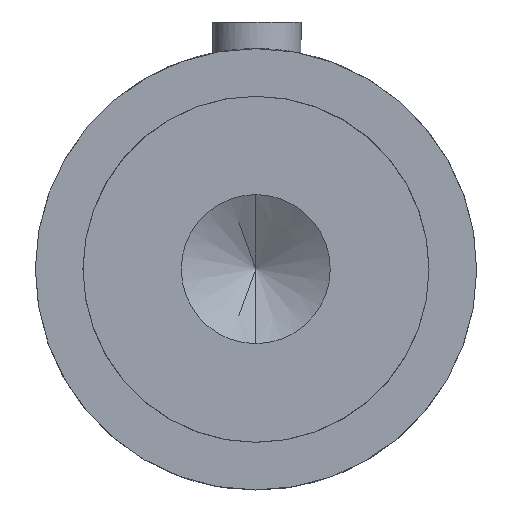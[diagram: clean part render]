
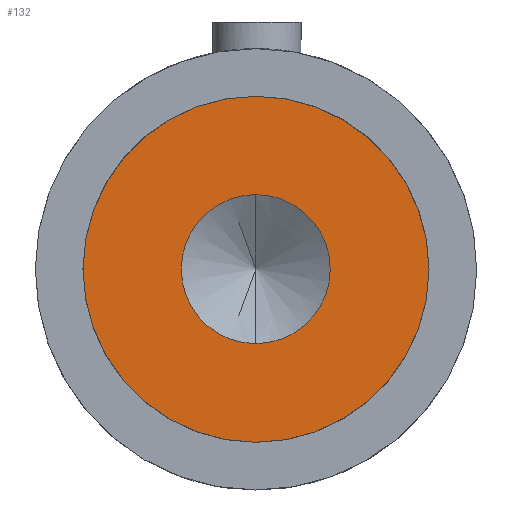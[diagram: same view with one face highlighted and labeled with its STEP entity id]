
A CAD part, front view. The second image highlights one B-rep face of the part: STEP entity #132.
In plain terms, the highlighted planar face has unit normal (0, -1, 0).
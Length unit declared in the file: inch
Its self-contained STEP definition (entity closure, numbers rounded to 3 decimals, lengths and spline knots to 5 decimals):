
#131 = EDGE_CURVE ( 'NONE', #167, #166, #914, .T. ) ;
#132 = ADVANCED_FACE ( 'NONE', ( #916, #930 ), #943, .F. ) ;
#138 = EDGE_LOOP ( 'NONE', ( #139, #260 ) ) ;
#139 = ORIENTED_EDGE ( 'NONE', *, *, #131, .F. ) ;
#155 = ORIENTED_EDGE ( 'NONE', *, *, #156, .F. ) ;
#156 = EDGE_CURVE ( 'NONE', #279, #275, #952, .T. ) ;
#157 = ORIENTED_EDGE ( 'NONE', *, *, #278, .F. ) ;
#163 = EDGE_CURVE ( 'NONE', #166, #167, #850, .T. ) ;
#166 = VERTEX_POINT ( 'NONE', #905 ) ;
#167 = VERTEX_POINT ( 'NONE', #904 ) ;
#244 = EDGE_LOOP ( 'NONE', ( #155, #157 ) ) ;
#260 = ORIENTED_EDGE ( 'NONE', *, *, #163, .F. ) ;
#275 = VERTEX_POINT ( 'NONE', #1319 ) ;
#278 = EDGE_CURVE ( 'NONE', #275, #279, #1314, .T. ) ;
#279 = VERTEX_POINT ( 'NONE', #1372 ) ;
#846 = DIRECTION ( 'NONE',  ( 0., 0., 1. ) ) ;
#847 = DIRECTION ( 'NONE',  ( 0., 1., 0. ) ) ;
#848 = CARTESIAN_POINT ( 'NONE',  ( -0.00905, -1.60547, -0.10615 ) ) ;
#849 = AXIS2_PLACEMENT_3D ( 'NONE', #848, #847, #846 ) ;
#850 = CIRCLE ( 'NONE', #849, 0.49 ) ;
#862 = DIRECTION ( 'NONE',  ( 0., 1., 0. ) ) ;
#863 = CARTESIAN_POINT ( 'NONE',  ( -0.00905, -1.60547, -0.10615 ) ) ;
#864 = AXIS2_PLACEMENT_3D ( 'NONE', #863, #862, #889 ) ;
#889 = DIRECTION ( 'NONE',  ( 0., 0., 1. ) ) ;
#904 = CARTESIAN_POINT ( 'NONE',  ( -0.00905, -1.60547, -0.59615 ) ) ;
#905 = CARTESIAN_POINT ( 'NONE',  ( -0.00905, -1.60547, 0.38385 ) ) ;
#912 = CARTESIAN_POINT ( 'NONE',  ( -0.00905, -1.60547, -0.10615 ) ) ;
#913 = AXIS2_PLACEMENT_3D ( 'NONE', #912, #918, #917 ) ;
#914 = CIRCLE ( 'NONE', #913, 0.49 ) ;
#916 = FACE_BOUND ( 'NONE', #244, .T. ) ;
#917 = DIRECTION ( 'NONE',  ( 0., 0., 1. ) ) ;
#918 = DIRECTION ( 'NONE',  ( 0., 1., 0. ) ) ;
#930 = FACE_OUTER_BOUND ( 'NONE', #138, .T. ) ;
#943 = PLANE ( 'NONE',  #864 ) ;
#948 = DIRECTION ( 'NONE',  ( 0., 0., -1. ) ) ;
#949 = DIRECTION ( 'NONE',  ( 0., -1., 0. ) ) ;
#950 = CARTESIAN_POINT ( 'NONE',  ( -0.00969, -1.60547, -0.10551 ) ) ;
#951 = AXIS2_PLACEMENT_3D ( 'NONE', #950, #949, #948 ) ;
#952 = CIRCLE ( 'NONE', #951, 0.21095 ) ;
#1314 = CIRCLE ( 'NONE', #1376, 0.21095 ) ;
#1319 = CARTESIAN_POINT ( 'NONE',  ( -0.00969, -1.60547, 0.10544 ) ) ;
#1372 = CARTESIAN_POINT ( 'NONE',  ( -0.00969, -1.60547, -0.31646 ) ) ;
#1373 = DIRECTION ( 'NONE',  ( 0., 0., -1. ) ) ;
#1374 = DIRECTION ( 'NONE',  ( 0., -1., 0. ) ) ;
#1375 = CARTESIAN_POINT ( 'NONE',  ( -0.00969, -1.60547, -0.10551 ) ) ;
#1376 = AXIS2_PLACEMENT_3D ( 'NONE', #1375, #1374, #1373 ) ;
